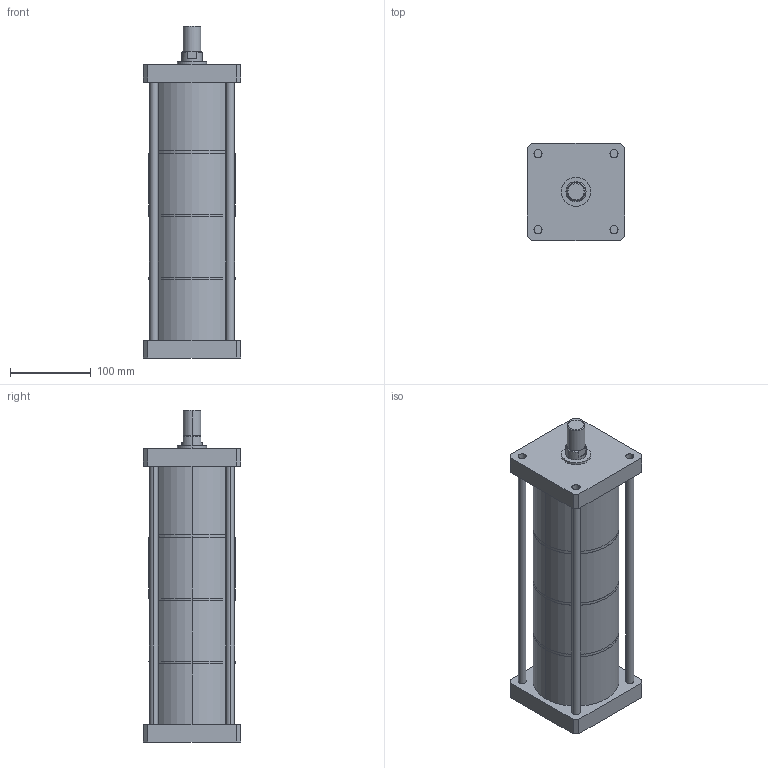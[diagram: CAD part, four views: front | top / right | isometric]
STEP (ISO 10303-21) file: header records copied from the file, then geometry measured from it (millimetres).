
FILE_DESCRIPTION (( 'STEP AP203' ), '1' );
FILE_NAME ('MHK-100-50-E-4.STEP', '2016-03-31T03:35:49', ( 'WIN' ), ( '' ), 'SwSTEP 2.0', 'SolidWorks 2014', '' );
FILE_SCHEMA (( 'CONFIG_CONTROL_DESIGN' ));
Length unit declared in the file: millimetre
Products named in the file (1): MHK-100-50-E-4
Bounding box: 120 x 120 x 410.5 mm (x, y, z)
Volume: 1787602.1 mm3; surface area: 439869.2 mm2
Topology: 13 solids, 13 shells, 175 faces, 384 edges, 251 vertices
Faces by surface type: plane 93, cylinder 69, cone 13
Entity records: 4906 total; most frequent: DIRECTION 891, CARTESIAN_POINT 819, ORIENTED_EDGE 760, EDGE_CURVE 380, AXIS2_PLACEMENT_3D 339, VERTEX_POINT 251, LINE 213, VECTOR 213
